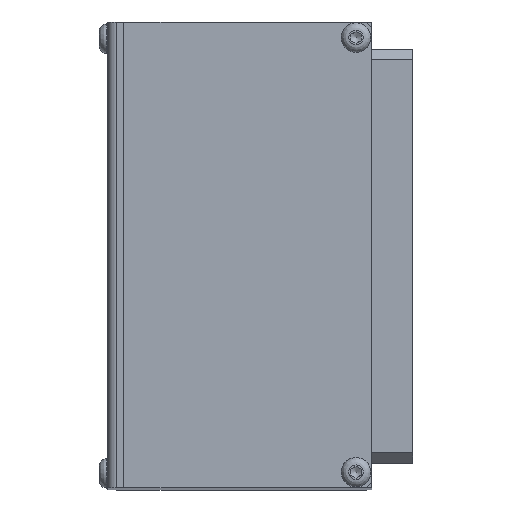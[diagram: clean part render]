
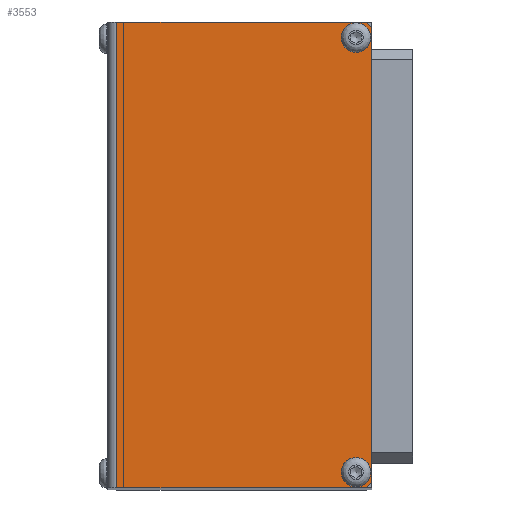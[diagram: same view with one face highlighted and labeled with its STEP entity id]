
A CAD part, top view. The second image highlights one B-rep face of the part: STEP entity #3553.
In plain terms, the highlighted planar face has unit normal (0, 0, 1).
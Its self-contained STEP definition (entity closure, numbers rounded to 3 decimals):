
#157=LINE('',#5675,#381);
#161=LINE('',#5684,#385);
#177=LINE('',#5720,#401);
#183=LINE('',#5735,#407);
#184=LINE('',#5736,#408);
#185=LINE('',#5737,#409);
#381=VECTOR('',#4545,1.414);
#385=VECTOR('',#4551,1.414);
#401=VECTOR('',#4575,90.);
#407=VECTOR('',#4595,88.);
#408=VECTOR('',#4596,48.2);
#409=VECTOR('',#4597,48.2);
#614=PLANE('',#3885);
#743=FACE_BOUND('',#1195,.T.);
#744=FACE_BOUND('',#1196,.T.);
#905=FACE_OUTER_BOUND('',#1194,.T.);
#1194=EDGE_LOOP('',(#2664,#2665,#2666,#2667,#2668,#2669));
#1195=EDGE_LOOP('',(#2670));
#1196=EDGE_LOOP('',(#2671));
#1447=CIRCLE('',#3834,2.85);
#1462=CIRCLE('',#3886,2.85);
#1645=VERTEX_POINT('',#5424);
#1698=VERTEX_POINT('',#5673);
#1699=VERTEX_POINT('',#5674);
#1702=VERTEX_POINT('',#5682);
#1703=VERTEX_POINT('',#5683);
#1718=VERTEX_POINT('',#5718);
#1719=VERTEX_POINT('',#5719);
#1722=VERTEX_POINT('',#5738);
#1982=EDGE_CURVE('',#1645,#1645,#1447,.T.);
#2055=EDGE_CURVE('',#1698,#1699,#157,.T.);
#2059=EDGE_CURVE('',#1702,#1703,#161,.T.);
#2075=EDGE_CURVE('',#1718,#1719,#177,.T.);
#2085=EDGE_CURVE('',#1703,#1698,#183,.T.);
#2086=EDGE_CURVE('',#1718,#1702,#184,.T.);
#2087=EDGE_CURVE('',#1699,#1719,#185,.T.);
#2088=EDGE_CURVE('',#1722,#1722,#1462,.T.);
#2664=ORIENTED_EDGE('',*,*,#2055,.F.);
#2665=ORIENTED_EDGE('',*,*,#2085,.F.);
#2666=ORIENTED_EDGE('',*,*,#2059,.F.);
#2667=ORIENTED_EDGE('',*,*,#2086,.F.);
#2668=ORIENTED_EDGE('',*,*,#2075,.T.);
#2669=ORIENTED_EDGE('',*,*,#2087,.F.);
#2670=ORIENTED_EDGE('',*,*,#2088,.T.);
#2671=ORIENTED_EDGE('',*,*,#1982,.T.);
#3553=ADVANCED_FACE('',(#905,#743,#744),#614,.T.);
#3834=AXIS2_PLACEMENT_3D('',#5425,#4423,#4424);
#3885=AXIS2_PLACEMENT_3D('',#5734,#4593,#4594);
#3886=AXIS2_PLACEMENT_3D('',#5739,#4598,#4599);
#4423=DIRECTION('center_axis',(0.,0.,
-1.));
#4424=DIRECTION('ref_axis',(1.,0.,0.));
#4545=DIRECTION('',(-0.707,-0.707,0.));
#4551=DIRECTION('',(0.707,-0.707,0.));
#4575=DIRECTION('',(0.,-1.,0.));
#4593=DIRECTION('center_axis',(0.,0.,
1.));
#4594=DIRECTION('ref_axis',(1.,0.,0.));
#4595=DIRECTION('',(0.,-1.,0.));
#4596=DIRECTION('',(1.,0.,0.));
#4597=DIRECTION('',(-1.,0.,0.));
#4598=DIRECTION('center_axis',(0.,0.,
-1.));
#4599=DIRECTION('ref_axis',(1.,0.,0.));
#5424=CARTESIAN_POINT('',(50.85,87.,250.));
#5425=CARTESIAN_POINT('Origin',(48.,87.,250.));
#5673=CARTESIAN_POINT('',(51.,1.,250.));
#5674=CARTESIAN_POINT('',(50.,0.,250.));
#5675=CARTESIAN_POINT('',(55.409,5.409,250.));
#5682=CARTESIAN_POINT('',(50.,90.,250.));
#5683=CARTESIAN_POINT('',(51.,89.,250.));
#5684=CARTESIAN_POINT('',(55.409,84.591,250.));
#5718=CARTESIAN_POINT('',(1.8,90.,250.));
#5719=CARTESIAN_POINT('',(1.8,0.,250.));
#5720=CARTESIAN_POINT('',(1.8,45.,250.));
#5734=CARTESIAN_POINT('Origin',(25.635,45.,250.));
#5735=CARTESIAN_POINT('',(51.,90.,250.));
#5736=CARTESIAN_POINT('',(1.8,90.,250.));
#5737=CARTESIAN_POINT('',(-1.259,0.,250.));
#5738=CARTESIAN_POINT('',(50.85,3.,250.));
#5739=CARTESIAN_POINT('Origin',(48.,3.,250.));
